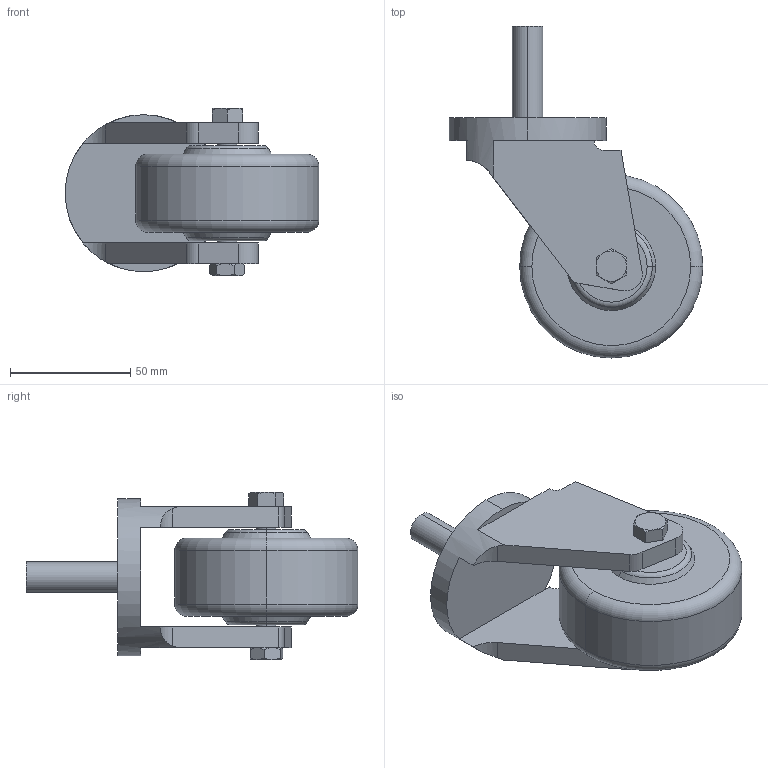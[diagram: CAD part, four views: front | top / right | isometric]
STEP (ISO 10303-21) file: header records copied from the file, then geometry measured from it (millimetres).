
FILE_DESCRIPTION (( 'STEP AP214' ), '1' );
FILE_NAME ('H030092100.STEP', '2014-02-11T16:14:48', ( 'Eric_Werenskjold' ), ( '' ), 'SwSTEP 2.0', 'SolidWorks 2014', '' );
FILE_SCHEMA (( 'AUTOMOTIVE_DESIGN' ));
Length unit declared in the file: inch
Products named in the file (5): Hex Bolt_Derived Ansi Inch Standard_HBOLT 0.3125-18x2.5x0.875-N; Hex Jam Nut_Derived Ansi Inch Standard_HJNUT 0.3125-18-D-N; wheel; caster base; H030092100
Assembly tree (4 placements, depth 2):
  H030092100
    caster base
    wheel
    Hex Jam Nut_Derived Ansi Inch Standard_HJNUT 0.3125-18-D-N
    Hex Bolt_Derived Ansi Inch Standard_HBOLT 0.3125-18x2.5x0.875-N
Bounding box: 105.54 x 138.05 x 69.6 mm (x, y, z)
Volume: 238251 mm3; surface area: 43562.7 mm2
Topology: 4 solids, 4 shells, 104 faces, 238 edges, 146 vertices
Faces by surface type: plane 42, cone 28, cylinder 26, torus 8
Entity records: 3356 total; most frequent: CARTESIAN_POINT 747, DIRECTION 522, ORIENTED_EDGE 476, EDGE_CURVE 238, AXIS2_PLACEMENT_3D 213, VERTEX_POINT 146, EDGE_LOOP 116, FACE_OUTER_BOUND 104
